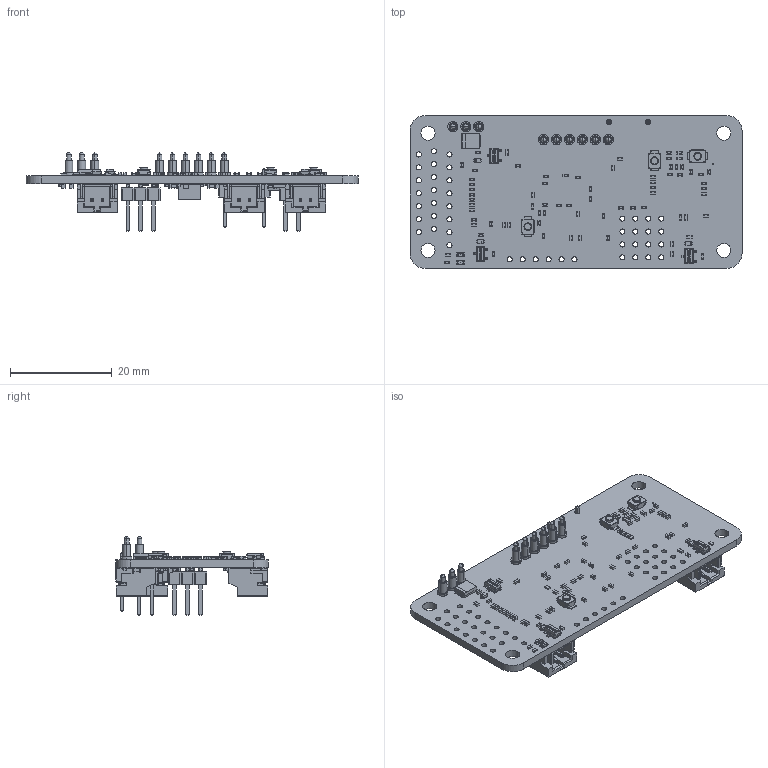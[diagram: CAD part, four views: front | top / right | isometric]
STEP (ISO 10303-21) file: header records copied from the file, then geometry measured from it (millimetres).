
FILE_DESCRIPTION(('KiCad electronic assembly'),'2;1');
FILE_NAME('Drone.step','2025-08-20T21:50:09',('Pcbnew'),('Kicad'), 'Open CASCADE STEP processor 7.8','KiCad to STEP converter','Unknown' );
FILE_SCHEMA(('AUTOMOTIVE_DESIGN { 1 0 10303 214 1 1 1 1 }'));
Length unit declared in the file: millimetre
Products named in the file (23): Drone 1; SOT23-3; CONN-SMD_YTC1P-3015-01; C_0402_1005Metric; L_0402_1005Metric; R_0402_1005Metric; SW_SPST_B3U-1000P; D_SOD-523; 0603 Red; Light; Body; Anode Bottom; Cathode Bottom; Anode; Cathode; Base; CP_EIA-3528-12_Kemet-T; CONN-SMD_P2.00_S2B-PH-SM4-TB-LF-SN; C_0603_1608Metric; PinHeader_2x03_P2.54mm_Vertical_SMD; PinHeader_1x01_P2.54mm_Vertical; Coilcraft-XGL4030; Drone_PCB
Assembly tree (140 placements, depth 3):
  Drone 1
    SOT23-3  x4
    CONN-SMD_YTC1P-3015-01  x9
    C_0402_1005Metric  x66
    L_0402_1005Metric  x2
    R_0402_1005Metric  x23
    SW_SPST_B3U-1000P  x3
    D_SOD-523  x4
    0603 Red  x2
      Light
      Body
      Anode Bottom
      Cathode Bottom
      Anode
      Cathode
      Base
    CP_EIA-3528-12_Kemet-T
    CONN-SMD_P2.00_S2B-PH-SM4-TB-LF-SN  x5
    C_0603_1608Metric  x8
    PinHeader_2x03_P2.54mm_Vertical_SMD  x2
    PinHeader_1x01_P2.54mm_Vertical  x2
    Coilcraft-XGL4030
    Drone_PCB
Bounding box: 65.1 x 30 x 15.49 mm (x, y, z)
Volume: 4051 mm3; surface area: 8091.3 mm2
Topology: 171 solids, 171 shells, 9392 faces, 24668 edges, 15988 vertices
Faces by surface type: plane 5390, cylinder 1965, bspline 1801, sphere 127, torus 109
Full cylindrical faces by diameter (mm): 0.3 x1, 1 x46, 1.5 x3, 2.75 x4
Entity records: 68531 total; most frequent: CARTESIAN_POINT 18302, ORIENTED_EDGE 8724, DIRECTION 7260, EDGE_CURVE 4362, LINE 3002, VECTOR 3002, VERTEX_POINT 2799, AXIS2_PLACEMENT_3D 2129
